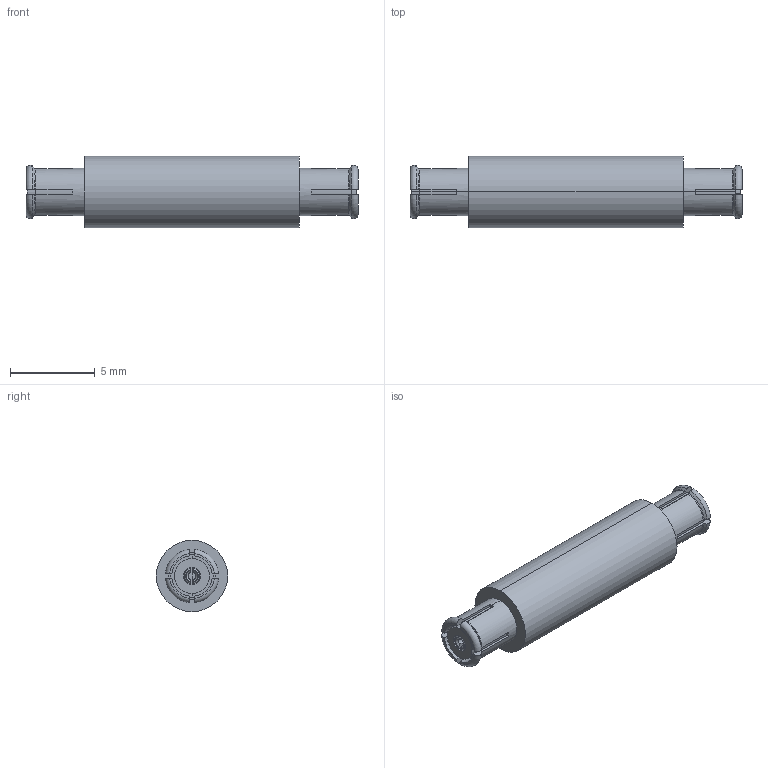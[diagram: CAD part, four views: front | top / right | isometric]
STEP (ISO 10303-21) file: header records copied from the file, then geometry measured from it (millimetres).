
FILE_DESCRIPTION (( 'STEP AP203' ), '1' );
FILE_NAME ('1290-4007.STEP', '2015-05-11T15:16:50', ( '' ), ( '' ), 'SwSTEP 2.0', 'SolidWorks 2014', '' );
FILE_SCHEMA (( 'CONFIG_CONTROL_DESIGN' ));
Length unit declared in the file: inch
Products named in the file (1): 1290-4007
Bounding box: 19.53 x 4.19 x 4.19 mm (x, y, z)
Volume: 214.2 mm3; surface area: 280.7 mm2
Topology: 1 solids, 1 shells, 130 faces, 355 edges, 234 vertices
Faces by surface type: plane 50, cylinder 42, torus 20, cone 18
Entity records: 4578 total; most frequent: CARTESIAN_POINT 1239, ORIENTED_EDGE 706, DIRECTION 668, EDGE_CURVE 353, AXIS2_PLACEMENT_3D 264, VERTEX_POINT 234, VECTOR 140, LINE 140
